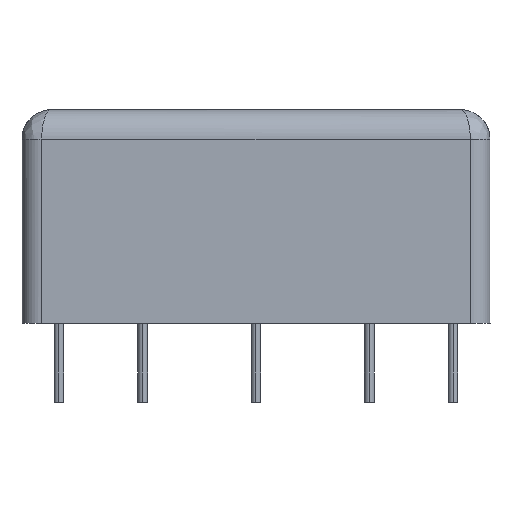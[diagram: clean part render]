
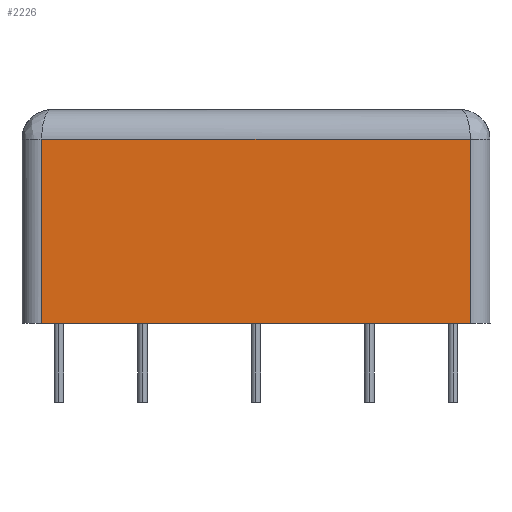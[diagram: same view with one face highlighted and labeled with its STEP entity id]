
A CAD part, left-side view. The second image highlights one B-rep face of the part: STEP entity #2226.
In plain terms, the highlighted planar face has unit normal (-1, 0, 0).
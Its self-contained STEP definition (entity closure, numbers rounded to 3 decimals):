
#54=DIRECTION('',(0.,-1.,0.));
#55=VECTOR('',#54,43.5);
#56=CARTESIAN_POINT('',(-34.75,21.75,0.));
#57=LINE('',#56,#55);
#359=DIRECTION('',(0.,0.,1.));
#360=VECTOR('',#359,18.7);
#361=CARTESIAN_POINT('',(-34.75,-21.75,0.));
#362=LINE('',#361,#360);
#385=DIRECTION('',(0.,-1.,0.));
#386=VECTOR('',#385,43.5);
#387=CARTESIAN_POINT('',(-34.75,21.75,18.7));
#388=LINE('',#387,#386);
#389=DIRECTION('',(0.,0.,1.));
#390=VECTOR('',#389,18.7);
#391=CARTESIAN_POINT('',(-34.75,21.75,0.));
#392=LINE('',#391,#390);
#1362=CARTESIAN_POINT('',(-34.75,21.75,0.));
#1364=VERTEX_POINT('',#1362);
#1365=CARTESIAN_POINT('',(-34.75,-21.75,0.));
#1366=VERTEX_POINT('',#1365);
#1397=CARTESIAN_POINT('',(-34.75,21.75,18.7));
#1398=CARTESIAN_POINT('',(-34.75,-21.75,
18.7));
#1399=VERTEX_POINT('',#1397);
#1400=VERTEX_POINT('',#1398);
#2215=CARTESIAN_POINT('',(-34.75,21.75,0.));
#2216=DIRECTION('',(-1.,0.,0.));
#2217=DIRECTION('',(0.,-1.,0.));
#2218=AXIS2_PLACEMENT_3D('',#2215,#2216,#2217);
#2219=PLANE('',#2218);
#2220=ORIENTED_EDGE('',*,*,#2207,.T.);
#2221=ORIENTED_EDGE('',*,*,#2145,.F.);
#2222=ORIENTED_EDGE('',*,*,#1756,.F.);
#2223=ORIENTED_EDGE('',*,*,#1828,.T.);
#2224=EDGE_LOOP('',(#2220,#2221,#2222,#2223));
#2225=FACE_OUTER_BOUND('',#2224,.F.);
#1756=EDGE_CURVE('',#1364,#1366,#57,.T.);
#1828=EDGE_CURVE('',#1364,#1399,#392,.T.);
#2145=EDGE_CURVE('',#1366,#1400,#362,.T.);
#2207=EDGE_CURVE('',#1399,#1400,#388,.T.);
#2226=ADVANCED_FACE('',(#2225),#2219,.T.);
